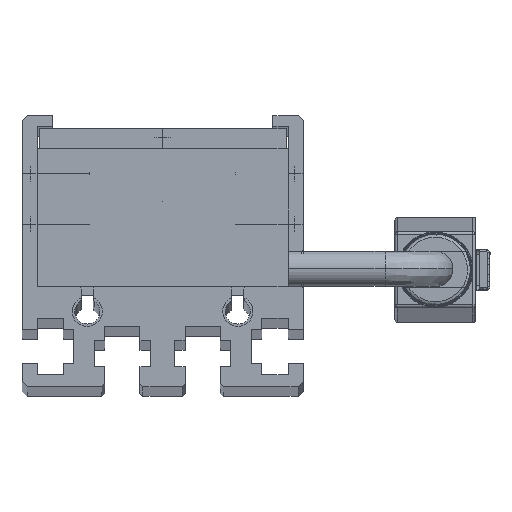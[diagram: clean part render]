
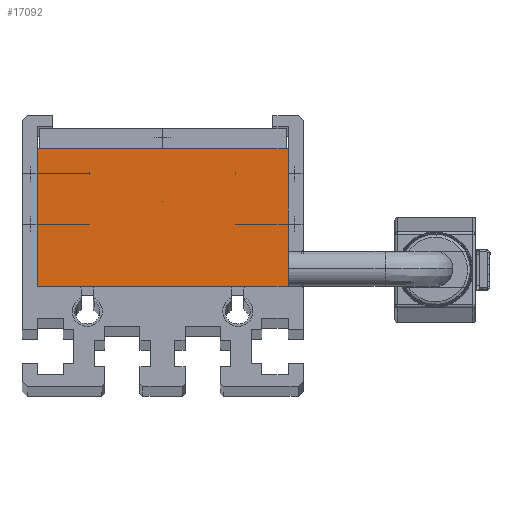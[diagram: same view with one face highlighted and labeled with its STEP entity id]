
A CAD part, top view. The second image highlights one B-rep face of the part: STEP entity #17092.
In plain terms, the highlighted planar face has unit normal (0, 0, 1).
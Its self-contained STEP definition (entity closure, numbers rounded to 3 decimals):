
#778 = ORIENTED_EDGE ( 'NONE', *, *, #13250, .F. ) ;
#962 = CARTESIAN_POINT ( 'NONE',  ( 12.5, 13.7, 276. ) ) ;
#1939 = CARTESIAN_POINT ( 'NONE',  ( 12.5, 13.7, 276. ) ) ;
#2010 = DIRECTION ( 'NONE',  ( -1., 0., 0. ) ) ;
#2212 = CARTESIAN_POINT ( 'NONE',  ( 12.5, 13.7, 276. ) ) ;
#2246 = ORIENTED_EDGE ( 'NONE', *, *, #2907, .T. ) ;
#2247 = VERTEX_POINT ( 'NONE', #962 ) ;
#2907 = EDGE_CURVE ( 'NONE', #15757, #6724, #14055, .T. ) ;
#3249 = DIRECTION ( 'NONE',  ( 0., -1., 0. ) ) ;
#3337 = DIRECTION ( 'NONE',  ( 0., -1., 0. ) ) ;
#3426 = LINE ( 'NONE', #2212, #6026 ) ;
#3514 = DIRECTION ( 'NONE',  ( 0., 0., -1. ) ) ;
#3841 = ORIENTED_EDGE ( 'NONE', *, *, #9182, .T. ) ;
#5322 = VECTOR ( 'NONE', #7902, 1000. ) ;
#5816 = VECTOR ( 'NONE', #15017, 1000. ) ;
#6026 = VECTOR ( 'NONE', #3337, 1000. ) ;
#6492 = VERTEX_POINT ( 'NONE', #10272 ) ;
#6666 = CARTESIAN_POINT ( 'NONE',  ( 12.5, 0., 276. ) ) ;
#6724 = VERTEX_POINT ( 'NONE', #7300 ) ;
#6729 = AXIS2_PLACEMENT_3D ( 'NONE', #1939, #3514, #2010 ) ;
#7300 = CARTESIAN_POINT ( 'NONE',  ( -12.5, 0., 276. ) ) ;
#7763 = LINE ( 'NONE', #6666, #5816 ) ;
#7902 = DIRECTION ( 'NONE',  ( -1., 0., 0. ) ) ;
#9182 = EDGE_CURVE ( 'NONE', #2247, #15757, #12183, .T. ) ;
#10272 = CARTESIAN_POINT ( 'NONE',  ( 12.5, 0., 276. ) ) ;
#10432 = PLANE ( 'NONE',  #6729 ) ;
#12183 = LINE ( 'NONE', #17223, #5322 ) ;
#12836 = FACE_OUTER_BOUND ( 'NONE', #14682, .T. ) ;
#12879 = EDGE_CURVE ( 'NONE', #6492, #6724, #7763, .T. ) ;
#13250 = EDGE_CURVE ( 'NONE', #2247, #6492, #3426, .T. ) ;
#13321 = CARTESIAN_POINT ( 'NONE',  ( -12.5, 13.7, 276. ) ) ;
#14055 = LINE ( 'NONE', #15574, #14506 ) ;
#14506 = VECTOR ( 'NONE', #3249, 1000. ) ;
#14682 = EDGE_LOOP ( 'NONE', ( #2246, #15949, #778, #3841 ) ) ;
#15017 = DIRECTION ( 'NONE',  ( -1., 0., 0. ) ) ;
#15574 = CARTESIAN_POINT ( 'NONE',  ( -12.5, 13.7, 276. ) ) ;
#15757 = VERTEX_POINT ( 'NONE', #13321 ) ;
#15949 = ORIENTED_EDGE ( 'NONE', *, *, #12879, .F. ) ;
#17092 = ADVANCED_FACE ( 'NONE', ( #12836 ), #10432, .F. ) ;
#17223 = CARTESIAN_POINT ( 'NONE',  ( 12.5, 13.7, 276. ) ) ;
